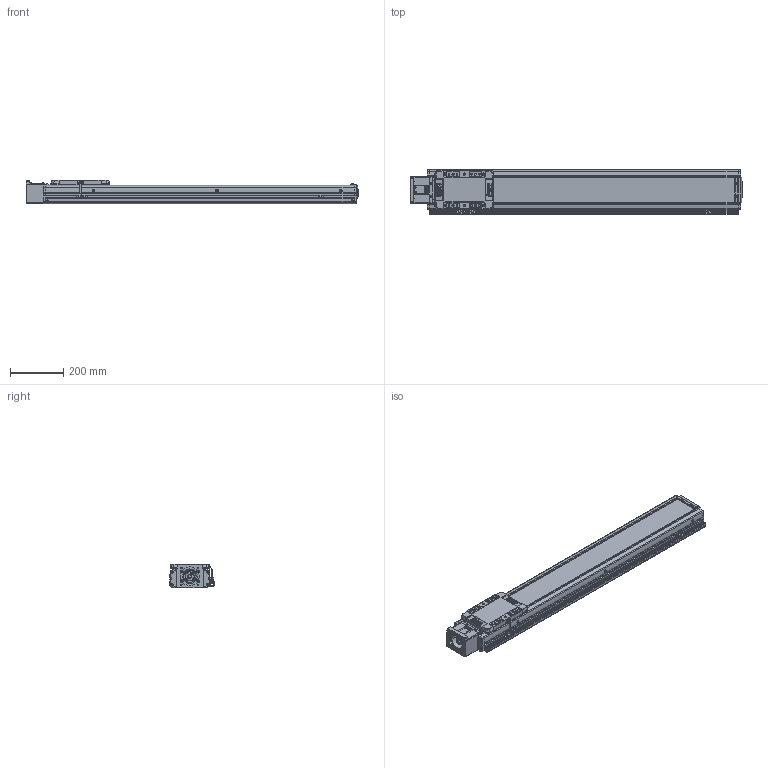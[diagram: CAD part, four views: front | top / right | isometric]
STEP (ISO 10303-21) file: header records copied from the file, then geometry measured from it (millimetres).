
FILE_DESCRIPTION(('STEP AP214'),'1');
FILE_NAME('Z:/Web/3D/SAN150/2013.04 (STP.)/SAN150ㅁㅁ-900S+3SR.stp','2013-05-07T10:40:25',(' '),(' '),'Spatial InterOp 3D',' ',' ');
FILE_SCHEMA(('automotive_design'));
Length unit declared in the file: millimetre
Products named in the file (95): SLBL-SAN150; SLCV-SAN150; FHCS M4.0 x 8.0; BHCS M4.0 x 10.0; SFX-SAN150; RRCV-SAN150; FRBL-SAN150; Spacer; RN15; FRCV-SAN150; Screw 20; BASE-SAN150-000L ; SUS COVER; 스크루 : Round - M5.0 x 6.0; BHCS M3.0 x 6.0; SSFX-SAN65; CPLCV-SAN65; SDWA47C(2); SDWA47C(3-1); SDWA47C(3); SDWA47C(1); SDWA47C(4); SDWA47C(5); MTHZ-SAN150-80; M3.0 x 6.0; SRL-16x17-360L; SGD-SAN150; EE-SX674; SBK-SX674-352; 스크루 : Round - M3.0 x 6.0
Bounding box: 1249 x 166 x 90 mm (x, y, z)
Volume: 6893794.5 mm3; surface area: 1415284.2 mm2
Topology: 95 solids, 95 shells, 3474 faces, 9025 edges, 5835 vertices
Faces by surface type: plane 1595, cylinder 1321, cone 433, sphere 80, bspline 29, torus 16
Entity records: 139994 total; most frequent: CARTESIAN_POINT 22599, DIRECTION 19523, ORIENTED_EDGE 17794, EDGE_CURVE 8897, AXIS2_PLACEMENT_3D 7258, VERTEX_POINT 5835, LINE 5007, VECTOR 5007
